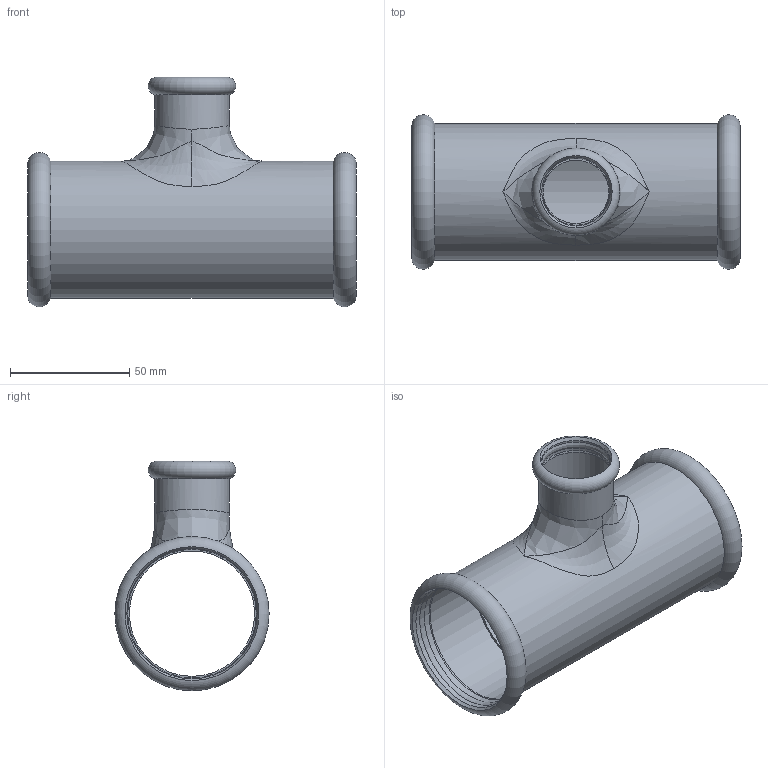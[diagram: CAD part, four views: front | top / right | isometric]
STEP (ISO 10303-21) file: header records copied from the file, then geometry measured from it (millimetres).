
FILE_DESCRIPTION(/* description */ ('TEE RIDOTTO STEELPRES 54-28-54 idroformato'),/* implementation_level */ '2;1');
FILE_NAME(/* name */ 'C:\Users\Vault\Desktop\392_STEELPRES\392054028_Steelpres.stp',/* time_stamp */ '2022-10-24T15:06:22+02:00',/* author */ ('Vault'),/* organization */ ('Raccorderie metalliche s.p.a. '),/* preprocessor_version */ 'ST-DEVELOPER v18.1',/* originating_system */ 'Autodesk Inventor 2020',/* authorisation */ 'Raccorderie metalliche s.p.a. ');
FILE_SCHEMA (('AUTOMOTIVE_DESIGN { 1 0 10303 214 3 1 1 }'));
Length unit declared in the file: millimetre
Products named in the file (1): 392054028I_Steelpres
Bounding box: 138 x 64.76 x 96.38 mm (x, y, z)
Volume: 62103.7 mm3; surface area: 56233.8 mm2
Topology: 1 solids, 1 shells, 39 faces, 135 edges, 93 vertices
Faces by surface type: cylinder 12, bspline 12, torus 9, plane 3, cone 3
Full cylindrical faces by diameter (mm): 28.4 x1, 28.8 x2, 31.4 x1, 52.6 x1, 54.5 x2, 54.7 x4, 57.5 x1
Entity records: 5424 total; most frequent: CARTESIAN_POINT 4276, ORIENTED_EDGE 258, DIRECTION 217, EDGE_CURVE 129, AXIS2_PLACEMENT_3D 101, VERTEX_POINT 93, CIRCLE 73, EDGE_LOOP 44
